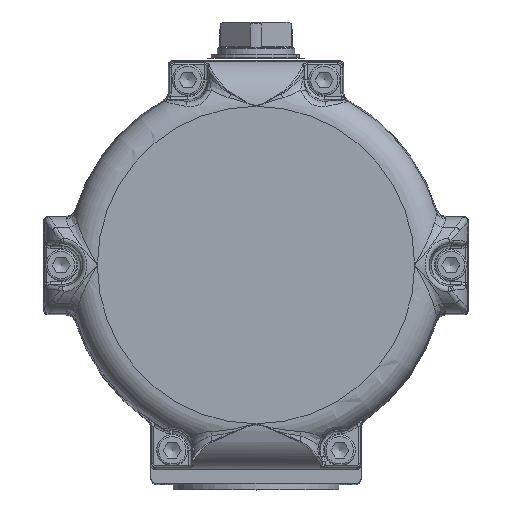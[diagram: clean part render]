
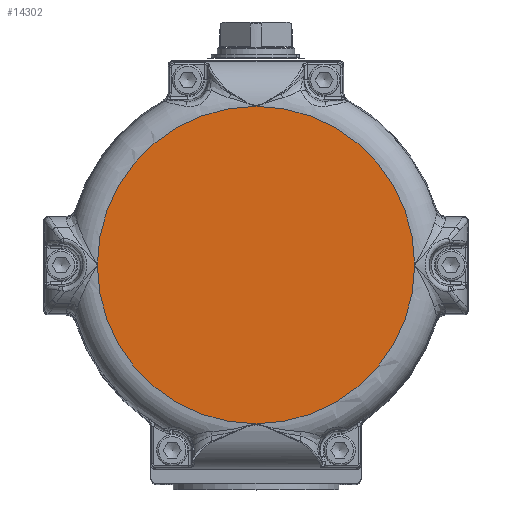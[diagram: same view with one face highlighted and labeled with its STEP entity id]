
A CAD part, top view. The second image highlights one B-rep face of the part: STEP entity #14302.
In plain terms, the highlighted planar face has unit normal (0, 0, 1).
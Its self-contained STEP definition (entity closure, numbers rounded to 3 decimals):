
#8950=CARTESIAN_POINT('',(0.,-81.418,186.7));
#8951=VERTEX_POINT('',#8950);
#8952=CARTESIAN_POINT('',(81.418,0.,186.7));
#8953=VERTEX_POINT('',#8952);
#8954=CARTESIAN_POINT('',(0.,0.,186.7));
#8955=DIRECTION('',(0.0,0.0,1.0));
#8956=DIRECTION('',(-1.0,0.0,0.0));
#8957=AXIS2_PLACEMENT_3D('',#8954,#8955,#8956);
#8958=CIRCLE('',#8957,81.418);
#8959=EDGE_CURVE('',#8951,#8953,#8958,.T.);
#9117=CARTESIAN_POINT('',(-81.418,0.,186.7));
#9118=VERTEX_POINT('',#9117);
#9119=CARTESIAN_POINT('',(0.,0.,186.7));
#9120=DIRECTION('',(0.0,0.0,1.0));
#9121=DIRECTION('',(-1.0,0.0,0.0));
#9122=AXIS2_PLACEMENT_3D('',#9119,#9120,#9121);
#9123=CIRCLE('',#9122,81.418);
#9124=EDGE_CURVE('',#9118,#8951,#9123,.T.);
#11177=CARTESIAN_POINT('',(0.,81.418,186.7));
#11178=VERTEX_POINT('',#11177);
#11189=CARTESIAN_POINT('',(0.,0.,186.7));
#11190=DIRECTION('',(0.0,0.0,1.0));
#11191=DIRECTION('',(-1.0,0.0,0.0));
#11192=AXIS2_PLACEMENT_3D('',#11189,#11190,#11191);
#11193=CIRCLE('',#11192,81.418);
#11194=EDGE_CURVE('',#8953,#11178,#11193,.T.);
#12023=CARTESIAN_POINT('',(0.,0.,186.7));
#12024=DIRECTION('',(0.0,0.0,1.0));
#12025=DIRECTION('',(-1.0,0.0,0.0));
#12026=AXIS2_PLACEMENT_3D('',#12023,#12024,#12025);
#12027=CIRCLE('',#12026,81.418);
#12028=EDGE_CURVE('',#11178,#9118,#12027,.T.);
#14291=CARTESIAN_POINT('',(-40.709,0.,186.7));
#14292=DIRECTION('',(0.0,0.0,1.0));
#14293=DIRECTION('',(0.0,-1.0,0.0));
#14294=AXIS2_PLACEMENT_3D('',#14291,#14292,#14293);
#14295=PLANE('',#14294);
#14296=ORIENTED_EDGE('',*,*,#9124,.T.);
#14297=ORIENTED_EDGE('',*,*,#8959,.T.);
#14298=ORIENTED_EDGE('',*,*,#11194,.T.);
#14299=ORIENTED_EDGE('',*,*,#12028,.T.);
#14300=EDGE_LOOP('',(#14296,#14297,#14298,#14299));
#14301=FACE_OUTER_BOUND('',#14300,.T.);
#14302=ADVANCED_FACE('',(#14301),#14295,.T.);
